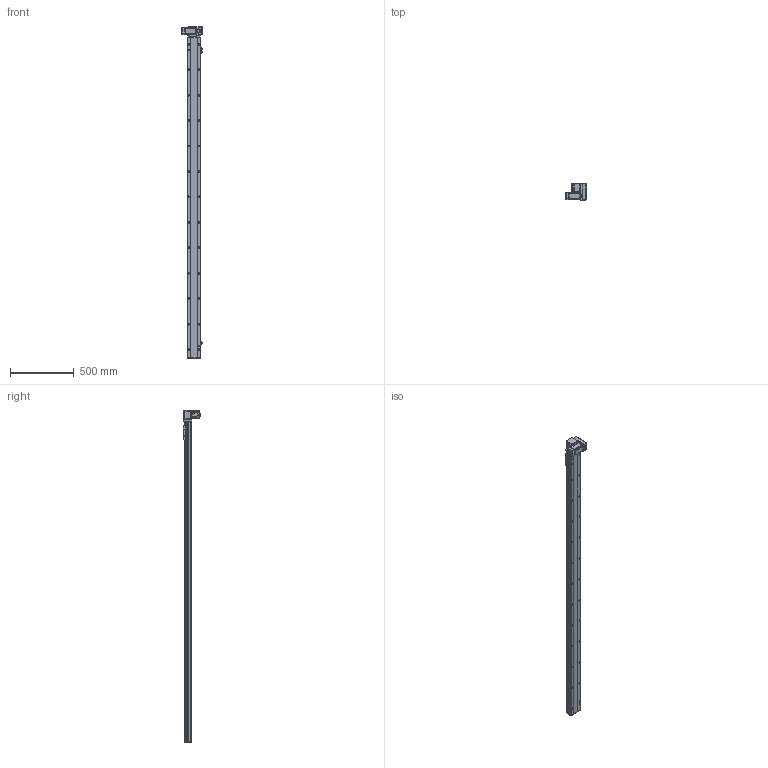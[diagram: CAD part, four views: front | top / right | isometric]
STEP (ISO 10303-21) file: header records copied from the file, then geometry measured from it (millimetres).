
FILE_DESCRIPTION (( 'STEP AP214' ), '1' );
FILE_NAME ('TPT10-L41.6-2300-RD-T20-C4.STEP', '2023-03-02T08:00:32', ( '' ), ( '' ), 'SwSTEP 2.0', 'SolidWorks 2020', '' );
FILE_SCHEMA (( 'AUTOMOTIVE_DESIGN' ));
Length unit declared in the file: millimetre
Products named in the file (11): 葩璃 TPT10-L-009 萇儂啣^TPT10-L41.6-RD-T20-C4_100W; 葩璃 TPT10-L-005 賑釱MZ-102A-03^TPT10-L41.6-RD-T20-C4; hexagon head bolts-full thread gb_GB_FASTENER_BOLT_STBAB A M5X16-N; hexagon socket head cap screws gb_GB_FASTENER_SCREWS_HSHCS M3X6-N; 葩璃 pm-t65-672^TPT10-L41.6-RD-T20-C4; 葩璃 TPT10-L-001 菁釱MZ-102A-01^TPT10-L41.6-RD-T20-C4; 葩璃 TPT10-L-007 々湍釱MZ-169x88^TPT10-L41.6-RD-T20-C4_L; hex nuts, style 1-grades ab gb_GB_FASTENER_NUT_SNAB1 M3-N; 葩璃 TPT10-L-002 奻裔MZ-102A-02^TPT10-L41.6-RD-T20-C4; 侂狟400W; TPT10-L41.6-2300-RD-T20-C4
Assembly tree (22 placements, depth 2):
  TPT10-L41.6-2300-RD-T20-C4
    葩璃 TPT10-L-001 菁釱MZ-102A-01^TPT10-L41.6-RD-T20-C4
    葩璃 TPT10-L-002 奻裔MZ-102A-02^TPT10-L41.6-RD-T20-C4
    葩璃 TPT10-L-007 々湍釱MZ-169x88^TPT10-L41.6-RD-T20-C4_L
    葩璃 TPT10-L-005 賑釱MZ-102A-03^TPT10-L41.6-RD-T20-C4
    葩璃 TPT10-L-009 萇儂啣^TPT10-L41.6-RD-T20-C4_100W
    葩璃 pm-t65-672^TPT10-L41.6-RD-T20-C4  x3
    侂狟400W
    hexagon head bolts-full thread gb_GB_FASTENER_BOLT_STBAB A M5X16-N
    hexagon socket head cap screws gb_GB_FASTENER_SCREWS_HSHCS M3X6-N  x6
    hex nuts, style 1-grades ab gb_GB_FASTENER_NUT_SNAB1 M3-N  x6
Bounding box: 160.7 x 134.65 x 2610 mm (x, y, z)
Volume: 8145071.7 mm3; surface area: 1569032.9 mm2
Topology: 30 solids, 30 shells, 1836 faces, 4823 edges, 3060 vertices
Faces by surface type: plane 988, cylinder 596, cone 214, bspline 26, torus 12
Entity records: 46293 total; most frequent: CARTESIAN_POINT 9184, DIRECTION 7468, ORIENTED_EDGE 7210, EDGE_CURVE 3605, AXIS2_PLACEMENT_3D 2635, VERTEX_POINT 2351, VECTOR 2198, LINE 2198
